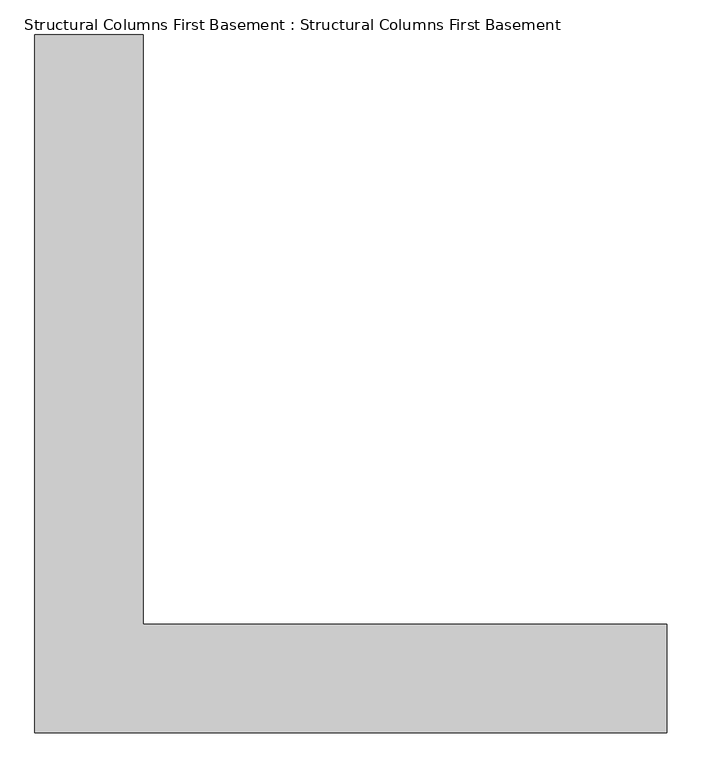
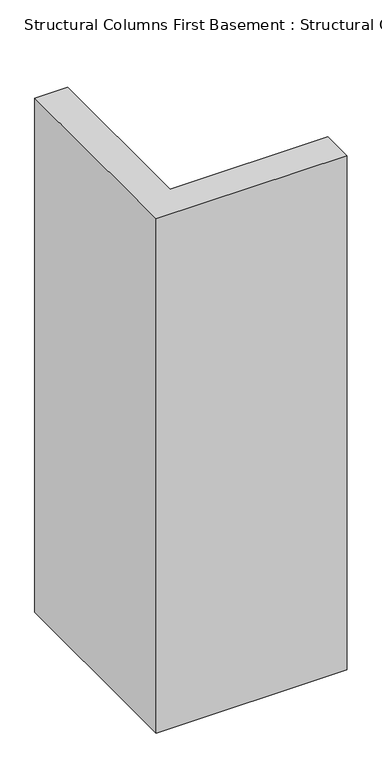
"""IFC4 building model written with IfcOpenShell, lengths in millimetres: column geometry, Structural Columns First Basement : Structural Columns First Basement."""

from ifc_helpers import new_model, si_unit, origin, place, context, project, spatial, faceted_brep, source, transform, mapped, element, save


def structural_columns_first_basement_structural_columns_first_f4fd8d2e(model_context):
    return source(origin(), model_context, "Body", "Brep", [
        faceted_brep([(-5157.8802351, 5533.8965304, -200.0), (-5157.8802351, 4226.127499, -200.0), (-5157.8802351, 3926.127499, -200.0), (-3700.6988602, 3926.127499, -200.0), (-3700.6988602, 4176.127499, -200.0), (-4907.8802351, 4176.127499, -200.0), (-4907.8802351, 4226.127499, -200.0), (-4907.8802351, 5533.8965304, -200.0), (-5157.8802351, 5533.8965304, -4350.0), (-4907.8802351, 5533.8965304, -4350.0), (-4907.8802351, 4226.127499, -4350.0), (-4907.8802351, 4176.127499, -4350.0), (-3700.6988602, 4176.127499, -4350.0), (-3700.6988602, 3926.127499, -4350.0), (-5157.8802351, 3926.127499, -4350.0), (-5157.8802351, 4226.127499, -4350.0), (-3700.6988602, 3926.127499, -2944.4265337), (-3700.6988602, 3926.127499, -2536.4004852), (-3700.6988602, 4176.127499, -2944.4265337), (-3700.6988602, 4176.127499, -2536.4004852)], [[[0, 1, 2, 3, 4, 5, 6, 7]], [[8, 9, 10, 11, 12, 13, 14, 15]], [[2, 1, 0, 8, 15, 14]], [[3, 2, 14, 13, 16, 17]], [[4, 3, 17, 16, 13, 12, 18, 19]], [[5, 4, 19, 18, 12, 11]], [[7, 6, 5, 11, 10, 9]], [[0, 7, 9, 8]]]),
    ])


if __name__ == "__main__":
    model = new_model("IFC4")
    model_context = context("Model", 3, world=origin())
    ifc_project = project(units=[si_unit("LENGTHUNIT", "METRE", prefix="MILLI")], contexts=[model_context])
    site = spatial("IfcSite", under=ifc_project)
    building = spatial("IfcBuilding", under=site)
    placement = place(None, origin())
    structural_columns_first_basement_structural_columns_first_shape = structural_columns_first_basement_structural_columns_first_f4fd8d2e(model_context)
    element("IfcColumn", 1, ObjectType="Structural Columns First Basement : Structural Columns First Basement", at=placement, inside=building, context=model_context, shape_type="MappedRepresentation", body=[
        mapped(structural_columns_first_basement_structural_columns_first_shape, transform((0.0, 0.0, 0.0), x_axis=(1.0, 0.0, 0.0), y_axis=(0.0, 1.0, 0.0), z_axis=(0.0, 0.0, 1.0))),
    ])
    save(model, "model.ifc")
